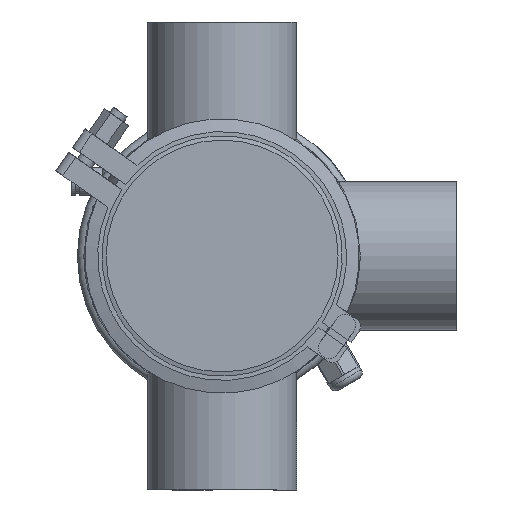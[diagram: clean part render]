
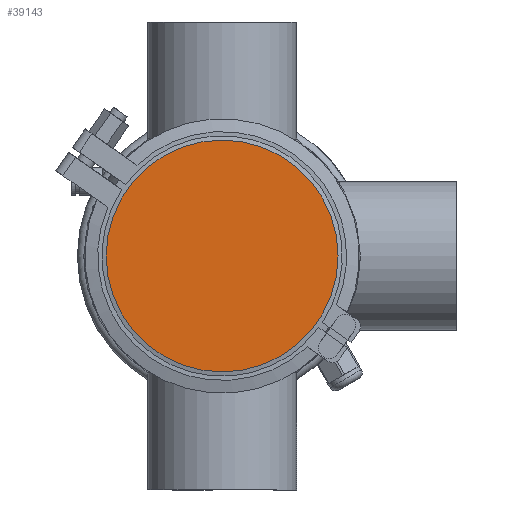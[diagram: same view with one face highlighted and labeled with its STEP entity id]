
A CAD part, front view. The second image highlights one B-rep face of the part: STEP entity #39143.
In plain terms, the highlighted planar face has unit normal (0, -1, 0).
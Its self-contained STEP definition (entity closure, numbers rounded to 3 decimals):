
#4035 = CARTESIAN_POINT ( 'NONE',  ( 0., 0., 54.5 ) ) ;
#11109 = CIRCLE ( 'NONE', #53800, 54.5 ) ;
#11286 = FACE_OUTER_BOUND ( 'NONE', #13192, .T. ) ;
#11613 = PLANE ( 'NONE',  #57778 ) ;
#12720 = CARTESIAN_POINT ( 'NONE',  ( 0., 0., 0. ) ) ;
#13192 = EDGE_LOOP ( 'NONE', ( #34597 ) ) ;
#17735 = DIRECTION ( 'NONE',  ( 0., 1., 0. ) ) ;
#18622 = VERTEX_POINT ( 'NONE', #4035 ) ;
#25938 = CARTESIAN_POINT ( 'NONE',  ( -54.5, 0., 0. ) ) ;
#34597 = ORIENTED_EDGE ( 'NONE', *, *, #40910, .F. ) ;
#36675 = DIRECTION ( 'NONE',  ( 0., 0., 1. ) ) ;
#39143 = ADVANCED_FACE ( 'NONE', ( #11286 ), #11613, .T. ) ;
#40910 = EDGE_CURVE ( 'NONE', #18622, #18622, #11109, .T. ) ;
#49257 = DIRECTION ( 'NONE',  ( 0., -1., 0. ) ) ;
#49851 = DIRECTION ( 'NONE',  ( 0., 0., -1. ) ) ;
#53800 = AXIS2_PLACEMENT_3D ( 'NONE', #12720, #17735, #36675 ) ;
#57778 = AXIS2_PLACEMENT_3D ( 'NONE', #25938, #49257, #49851 ) ;
